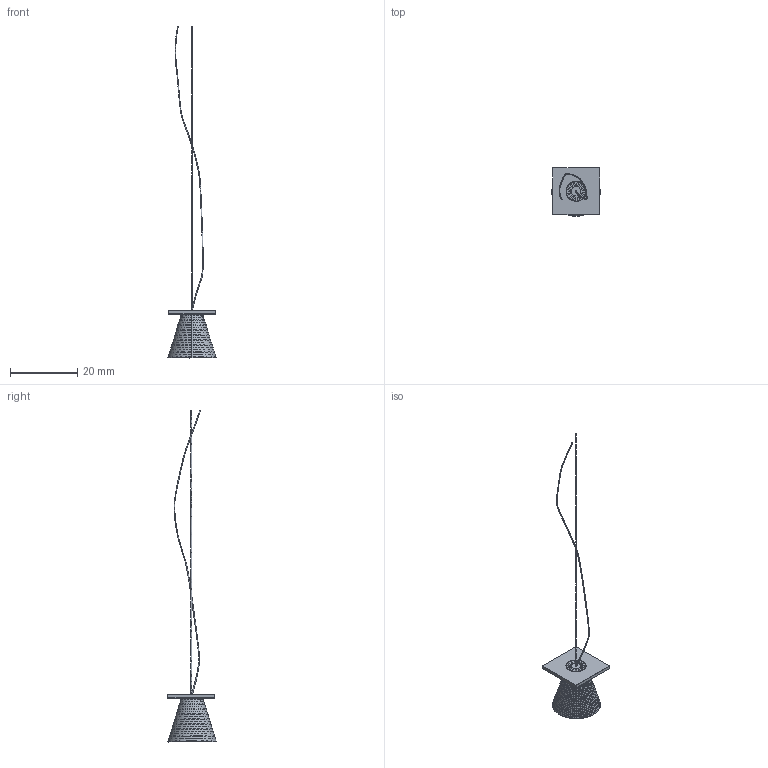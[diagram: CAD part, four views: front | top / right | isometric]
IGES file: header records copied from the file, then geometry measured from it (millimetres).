
Global section: file name: D:\3ddFactory\3D_Kartell\Ex-novo_3dd\Light air\9130\Light-air_3d_Eugeni Quitllet_Kartell.igs; native system: Rhinoceros ( Mar 10 2014 ); preprocessor: Trout Lake IGES 012 Mar 10 2014; date: 180215.180709; units: millimetre
Bounding box: 14.37 x 14.45 x 98.8 mm (x, y, z)
Surface area: 2549.9 mm2 (no closed solid volume)
Topology: 0 solids, 0 shells, 531 faces, 2611 edges, 2467 vertices
Faces by surface type: bspline 531
